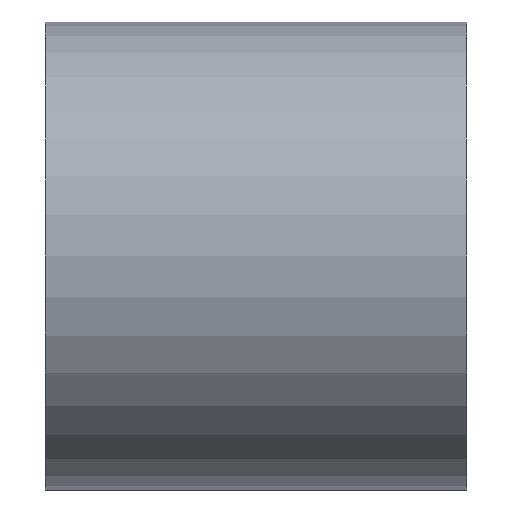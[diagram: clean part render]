
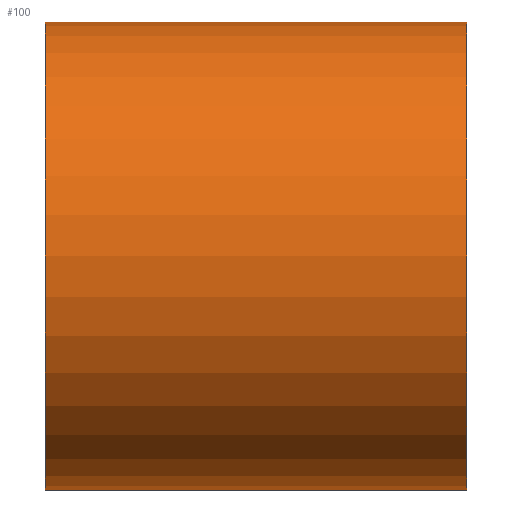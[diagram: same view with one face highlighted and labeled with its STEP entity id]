
A CAD part, left-side view. The second image highlights one B-rep face of the part: STEP entity #100.
In plain terms, the highlighted cylindrical face has radius 6.35 mm (diameter 12.7 mm), a partial arc.
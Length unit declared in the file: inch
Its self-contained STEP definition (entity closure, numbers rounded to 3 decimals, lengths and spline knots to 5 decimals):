
#1 = AXIS2_PLACEMENT_3D ( 'NONE', #158, #110, #235 ) ;
#7 = ORIENTED_EDGE ( 'NONE', *, *, #115, .T. ) ;
#10 = VERTEX_POINT ( 'NONE', #75 ) ;
#13 = EDGE_CURVE ( 'NONE', #244, #201, #120, .T. ) ;
#43 = CARTESIAN_POINT ( 'NONE',  ( 0., 0.45, 0.25 ) ) ;
#47 = DIRECTION ( 'NONE',  ( 0., 1., 0. ) ) ;
#48 = DIRECTION ( 'NONE',  ( 0., 0., 1. ) ) ;
#49 = CARTESIAN_POINT ( 'NONE',  ( 0., 0., 0. ) ) ;
#50 = LINE ( 'NONE', #43, #123 ) ;
#52 = CIRCLE ( 'NONE', #245, 0.25 ) ;
#75 = CARTESIAN_POINT ( 'NONE',  ( 0., 0., 0.25 ) ) ;
#96 = CARTESIAN_POINT ( 'NONE',  ( 0., 0.45, 0. ) ) ;
#100 = ADVANCED_FACE ( 'NONE', ( #242 ), #137, .T. ) ;
#106 = DIRECTION ( 'NONE',  ( 0., -1., 0. ) ) ;
#107 = ORIENTED_EDGE ( 'NONE', *, *, #239, .T. ) ;
#108 = CARTESIAN_POINT ( 'NONE',  ( 0., 0., -0.25 ) ) ;
#109 = ORIENTED_EDGE ( 'NONE', *, *, #13, .F. ) ;
#110 = DIRECTION ( 'NONE',  ( 0., 1., 0. ) ) ;
#115 = EDGE_CURVE ( 'NONE', #216, #10, #52, .T. ) ;
#120 = CIRCLE ( 'NONE', #1, 0.25 ) ;
#123 = VECTOR ( 'NONE', #106, 39.37008 ) ;
#136 = DIRECTION ( 'NONE',  ( 0., -1., 0. ) ) ;
#137 = CYLINDRICAL_SURFACE ( 'NONE', #217, 0.25 ) ;
#138 = LINE ( 'NONE', #250, #248 ) ;
#157 = ORIENTED_EDGE ( 'NONE', *, *, #223, .F. ) ;
#158 = CARTESIAN_POINT ( 'NONE',  ( 0., 0.45, 0. ) ) ;
#163 = EDGE_LOOP ( 'NONE', ( #157, #109, #107, #7 ) ) ;
#168 = CARTESIAN_POINT ( 'NONE',  ( 0., 0.45, -0.25 ) ) ;
#189 = CARTESIAN_POINT ( 'NONE',  ( 0., 0.45, 0.25 ) ) ;
#201 = VERTEX_POINT ( 'NONE', #189 ) ;
#214 = DIRECTION ( 'NONE',  ( 0., 0., -1. ) ) ;
#216 = VERTEX_POINT ( 'NONE', #108 ) ;
#217 = AXIS2_PLACEMENT_3D ( 'NONE', #96, #136, #214 ) ;
#223 = EDGE_CURVE ( 'NONE', #201, #10, #50, .T. ) ;
#228 = DIRECTION ( 'NONE',  ( 0., -1., 0. ) ) ;
#235 = DIRECTION ( 'NONE',  ( 0., 0., 1. ) ) ;
#239 = EDGE_CURVE ( 'NONE', #244, #216, #138, .T. ) ;
#242 = FACE_OUTER_BOUND ( 'NONE', #163, .T. ) ;
#244 = VERTEX_POINT ( 'NONE', #168 ) ;
#245 = AXIS2_PLACEMENT_3D ( 'NONE', #49, #47, #48 ) ;
#248 = VECTOR ( 'NONE', #228, 39.37008 ) ;
#250 = CARTESIAN_POINT ( 'NONE',  ( 0., 0.45, -0.25 ) ) ;
